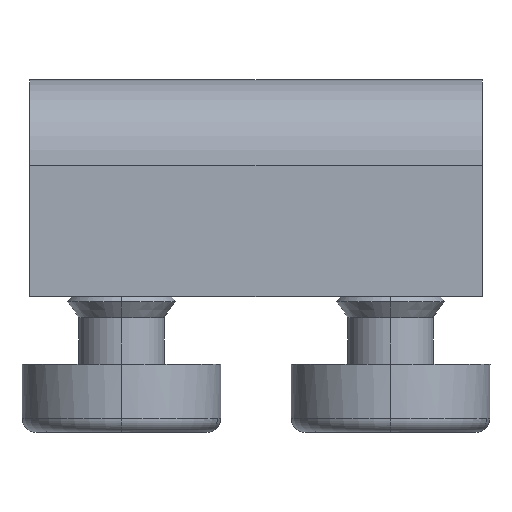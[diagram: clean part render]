
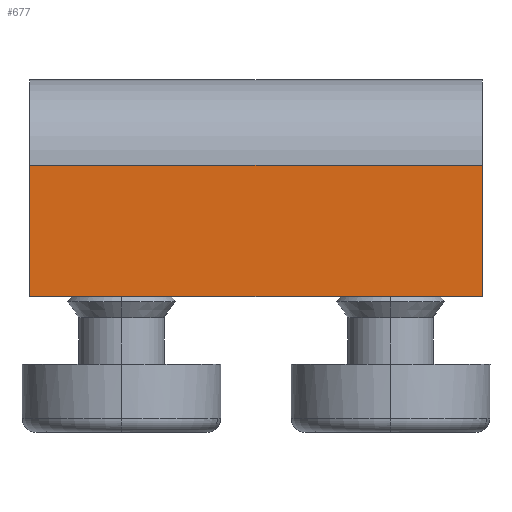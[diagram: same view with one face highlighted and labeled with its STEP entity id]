
A CAD part, top view. The second image highlights one B-rep face of the part: STEP entity #677.
In plain terms, the highlighted planar face has unit normal (0, 0, 1).
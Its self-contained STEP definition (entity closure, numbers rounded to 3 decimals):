
#26 = CARTESIAN_POINT ( 'NONE',  ( -5., 0., 1.9 ) ) ;
#62 = VERTEX_POINT ( 'NONE', #26 ) ;
#80 = CARTESIAN_POINT ( 'NONE',  ( -5., 0., 1.9 ) ) ;
#116 = EDGE_CURVE ( 'NONE', #62, #550, #534, .T. ) ;
#187 = LINE ( 'NONE', #80, #1060 ) ;
#214 = DIRECTION ( 'NONE',  ( 0., -1., 0. ) ) ;
#299 = CARTESIAN_POINT ( 'NONE',  ( 5., 0., 1.9 ) ) ;
#314 = PLANE ( 'NONE',  #915 ) ;
#379 = ORIENTED_EDGE ( 'NONE', *, *, #435, .T. ) ;
#425 = CARTESIAN_POINT ( 'NONE',  ( 5., 0., 1.9 ) ) ;
#435 = EDGE_CURVE ( 'NONE', #501, #1072, #648, .T. ) ;
#436 = ORIENTED_EDGE ( 'NONE', *, *, #719, .F. ) ;
#480 = CARTESIAN_POINT ( 'NONE',  ( 5., -2.9, 1.9 ) ) ;
#488 = DIRECTION ( 'NONE',  ( 1., 0., 0. ) ) ;
#501 = VERTEX_POINT ( 'NONE', #806 ) ;
#534 = LINE ( 'NONE', #924, #1192 ) ;
#550 = VERTEX_POINT ( 'NONE', #299 ) ;
#635 = CARTESIAN_POINT ( 'NONE',  ( -5., 0., 1.9 ) ) ;
#648 = LINE ( 'NONE', #779, #1020 ) ;
#671 = DIRECTION ( 'NONE',  ( 1., 0., 0. ) ) ;
#677 = ADVANCED_FACE ( 'NONE', ( #998 ), #314, .T. ) ;
#719 = EDGE_CURVE ( 'NONE', #550, #1072, #1129, .T. ) ;
#779 = CARTESIAN_POINT ( 'NONE',  ( -5., -2.9, 1.9 ) ) ;
#780 = ORIENTED_EDGE ( 'NONE', *, *, #116, .F. ) ;
#790 = DIRECTION ( 'NONE',  ( 0., -1., 0. ) ) ;
#792 = VECTOR ( 'NONE', #1149, 1000. ) ;
#806 = CARTESIAN_POINT ( 'NONE',  ( -5., -2.9, 1.9 ) ) ;
#842 = DIRECTION ( 'NONE',  ( 0., 0., 1. ) ) ;
#915 = AXIS2_PLACEMENT_3D ( 'NONE', #635, #842, #214 ) ;
#924 = CARTESIAN_POINT ( 'NONE',  ( -5., 0., 1.9 ) ) ;
#998 = FACE_OUTER_BOUND ( 'NONE', #1003, .T. ) ;
#1003 = EDGE_LOOP ( 'NONE', ( #379, #436, #780, #1285 ) ) ;
#1020 = VECTOR ( 'NONE', #671, 1000. ) ;
#1060 = VECTOR ( 'NONE', #790, 1000. ) ;
#1072 = VERTEX_POINT ( 'NONE', #480 ) ;
#1129 = LINE ( 'NONE', #425, #792 ) ;
#1149 = DIRECTION ( 'NONE',  ( 0., -1., 0. ) ) ;
#1192 = VECTOR ( 'NONE', #488, 1000. ) ;
#1228 = EDGE_CURVE ( 'NONE', #62, #501, #187, .T. ) ;
#1285 = ORIENTED_EDGE ( 'NONE', *, *, #1228, .T. ) ;
